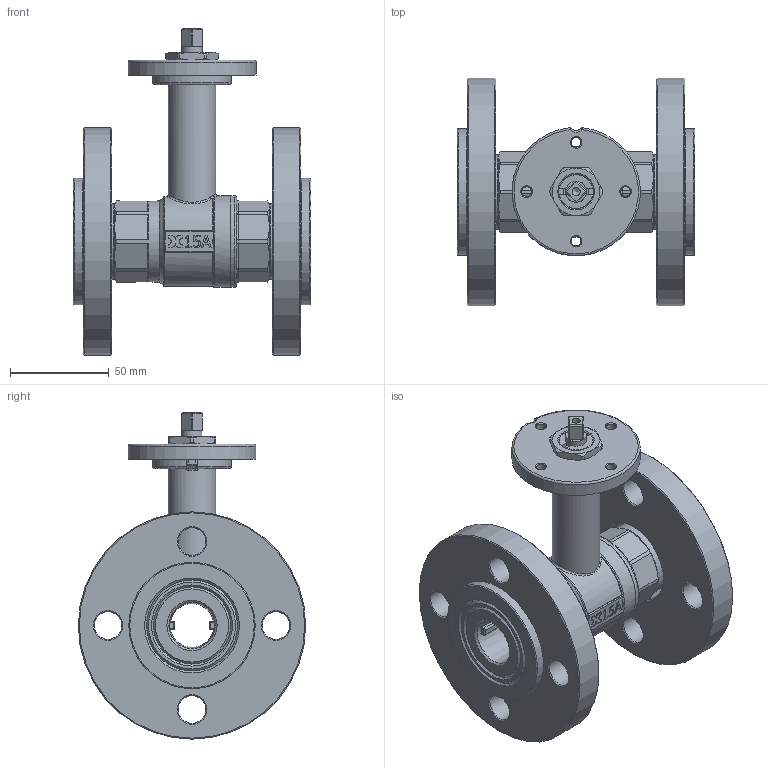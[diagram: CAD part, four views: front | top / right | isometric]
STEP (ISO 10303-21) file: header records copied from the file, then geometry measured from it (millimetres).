
FILE_DESCRIPTION(/* description */ ('Sfera DN 1"'),/* implementation_level */ '2;1');
FILE_NAME(/* name */ '\\dcidrosfer01\user$\ut4\Desktop\TICOM 95 PME STP\Art.95 PME DN25.stp',/* time_stamp */ '2015-07-21T10:59:05+02:00',/* author */ ('ut4'),/* organization */ (''),/* preprocessor_version */ 'ST-DEVELOPER v15.6',/* originating_system */ 'Autodesk Inventor 2015',/* authorisation */ '');
FILE_SCHEMA (('AUTOMOTIVE_DESIGN { 1 0 10303 214 3 1 1 }'));
Length unit declared in the file: millimetre
Products named in the file (17): Sfera 001; O-ring 29.82 x 2.62; Dischetto portamotore SM Ø19 lav.; Dado blocca piastra SM2; Anello antigrip. perno mot. Ø15; Boccola antigrip. perno mot. Ø15; O-ring 11.11 x 1.78; Sede 001; Manic. femmina-deviatore 001 mot.; Flangia bocchettone DN25 PN16; Bocchettone DN25; O-ring 31.47 x 1.78; Corpo prolunga mot. 001; Perno prolunga mot. 15 q8; Tubetto prolunga mot.001; Ghiera ferma asta mot. 20-19; Valvola a sfera mot. 001 art.95 PM SM
Assembly tree (23 placements, depth 2):
  Valvola a sfera mot. 001 art.95 PM SM
    Sfera 001
    O-ring 29.82 x 2.62  x2
    Dischetto portamotore SM Ø19 lav.
    Dado blocca piastra SM2
    Anello antigrip. perno mot. Ø15
    Boccola antigrip. perno mot. Ø15  x2
    O-ring 11.11 x 1.78  x2
    Sede 001  x2
    Manic. femmina-deviatore 001 mot.
    Flangia bocchettone DN25 PN16  x2
    Bocchettone DN25  x2
    O-ring 31.47 x 1.78  x2
    Corpo prolunga mot. 001
    Perno prolunga mot. 15 q8
    Tubetto prolunga mot.001
    Ghiera ferma asta mot. 20-19
Bounding box: 120.2 x 115 x 165.1 mm (x, y, z)
Volume: 414650.1 mm3; surface area: 149171.5 mm2
Topology: 23 solids, 23 shells, 744 faces, 1793 edges, 1108 vertices
Faces by surface type: plane 276, cylinder 203, cone 111, torus 73, bspline 60, sphere 21
Full cylindrical faces by diameter (mm): 4.134 x1, 4.917 x4, 10.5 x3, 10.7 x1, 12 x1, 12.1 x2, 12.4 x2, 12.5 x4, 14 x8, 14.9 x3, 15 x4, 17.5 x1, 18 x1, 18.3 x1, 18.5 x1, 19 x2, 20 x1, 24 x1, 25 x7, 29.9 x2, 30.3 x2, 33.25 x2, 35 x4, 36 x2, 38 x2, 40.5 x1, 41 x1, 42 x1, 43 x3, 45.5 x1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
Entity records: 20571 total; most frequent: CARTESIAN_POINT 5280, DIRECTION 3030, ORIENTED_EDGE 2880, EDGE_CURVE 1440, AXIS2_PLACEMENT_3D 1209, VERTEX_POINT 968, EDGE_LOOP 860, FACE_OUTER_BOUND 658
